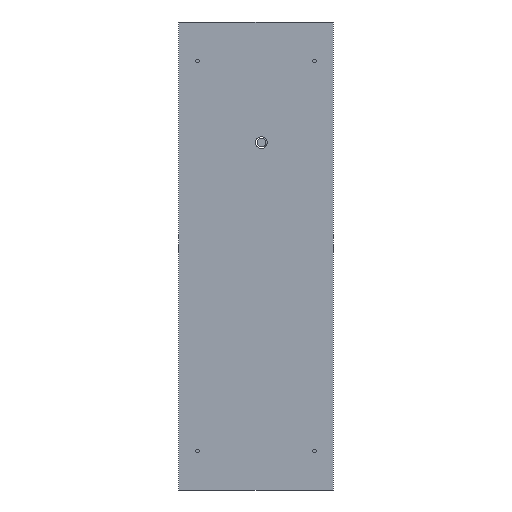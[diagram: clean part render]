
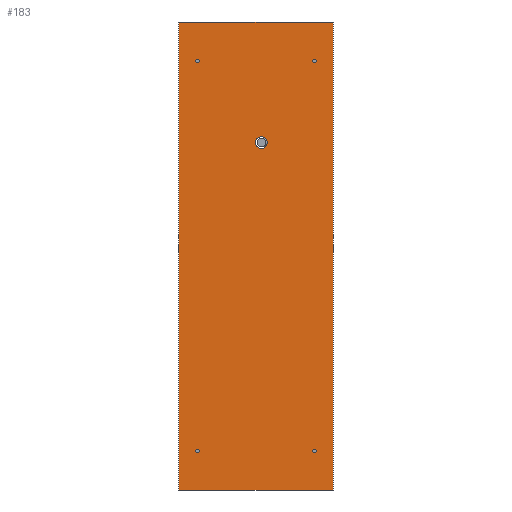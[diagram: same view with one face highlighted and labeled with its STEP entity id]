
A CAD part, front view. The second image highlights one B-rep face of the part: STEP entity #183.
In plain terms, the highlighted planar face has unit normal (0, -1, 0).
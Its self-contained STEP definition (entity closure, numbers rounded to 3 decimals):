
#67 = EDGE_CURVE('',#68,#70,#72,.T.);
#68 = VERTEX_POINT('',#69);
#69 = CARTESIAN_POINT('',(-99.,-52.,12.));
#70 = VERTEX_POINT('',#71);
#71 = CARTESIAN_POINT('',(-99.,-52.,612.));
#72 = SURFACE_CURVE('',#73,(#77,#89),.PCURVE_S1.);
#73 = LINE('',#74,#75);
#74 = CARTESIAN_POINT('',(-99.,-52.,12.));
#75 = VECTOR('',#76,1.);
#76 = DIRECTION('',(0.,0.,1.));
#77 = PCURVE('',#78,#83);
#78 = PLANE('',#79);
#79 = AXIS2_PLACEMENT_3D('',#80,#81,#82);
#80 = CARTESIAN_POINT('',(-99.,-52.,12.));
#81 = DIRECTION('',(1.,0.,0.));
#82 = DIRECTION('',(0.,0.,1.));
#83 = DEFINITIONAL_REPRESENTATION('',(#84),#88);
#84 = LINE('',#85,#86);
#85 = CARTESIAN_POINT('',(0.,0.));
#86 = VECTOR('',#87,1.);
#87 = DIRECTION('',(1.,0.));
#88 = ( GEOMETRIC_REPRESENTATION_CONTEXT(2) 
PARAMETRIC_REPRESENTATION_CONTEXT() REPRESENTATION_CONTEXT('2D SPACE',''
  ) );
#89 = PCURVE('',#90,#95);
#90 = PLANE('',#91);
#91 = AXIS2_PLACEMENT_3D('',#92,#93,#94);
#92 = CARTESIAN_POINT('',(-99.,-52.,12.));
#93 = DIRECTION('',(0.,1.,0.));
#94 = DIRECTION('',(0.,0.,1.));
#95 = DEFINITIONAL_REPRESENTATION('',(#96),#100);
#96 = LINE('',#97,#98);
#97 = CARTESIAN_POINT('',(0.,0.));
#98 = VECTOR('',#99,1.);
#99 = DIRECTION('',(1.,0.));
#100 = ( GEOMETRIC_REPRESENTATION_CONTEXT(2) 
PARAMETRIC_REPRESENTATION_CONTEXT() REPRESENTATION_CONTEXT('2D SPACE',''
  ) );
#118 = PLANE('',#119);
#119 = AXIS2_PLACEMENT_3D('',#120,#121,#122);
#120 = CARTESIAN_POINT('',(-99.,-52.,12.));
#121 = DIRECTION('',(0.,0.,1.));
#122 = DIRECTION('',(1.,0.,0.));
#172 = PLANE('',#173);
#173 = AXIS2_PLACEMENT_3D('',#174,#175,#176);
#174 = CARTESIAN_POINT('',(-99.,-52.,612.));
#175 = DIRECTION('',(0.,0.,1.));
#176 = DIRECTION('',(1.,0.,0.));
#183 = ADVANCED_FACE('',(#184,#259,#290,#321,#352,#383),#90,.F.);
#184 = FACE_BOUND('',#185,.F.);
#185 = EDGE_LOOP('',(#186,#209,#210,#233));
#186 = ORIENTED_EDGE('',*,*,#187,.F.);
#187 = EDGE_CURVE('',#68,#188,#190,.T.);
#188 = VERTEX_POINT('',#189);
#189 = CARTESIAN_POINT('',(99.,-52.,12.));
#190 = SURFACE_CURVE('',#191,(#195,#202),.PCURVE_S1.);
#191 = LINE('',#192,#193);
#192 = CARTESIAN_POINT('',(-99.,-52.,12.));
#193 = VECTOR('',#194,1.);
#194 = DIRECTION('',(1.,0.,0.));
#195 = PCURVE('',#90,#196);
#196 = DEFINITIONAL_REPRESENTATION('',(#197),#201);
#197 = LINE('',#198,#199);
#198 = CARTESIAN_POINT('',(0.,0.));
#199 = VECTOR('',#200,1.);
#200 = DIRECTION('',(0.,1.));
#201 = ( GEOMETRIC_REPRESENTATION_CONTEXT(2) 
PARAMETRIC_REPRESENTATION_CONTEXT() REPRESENTATION_CONTEXT('2D SPACE',''
  ) );
#202 = PCURVE('',#118,#203);
#203 = DEFINITIONAL_REPRESENTATION('',(#204),#208);
#204 = LINE('',#205,#206);
#205 = CARTESIAN_POINT('',(0.,0.));
#206 = VECTOR('',#207,1.);
#207 = DIRECTION('',(1.,0.));
#208 = ( GEOMETRIC_REPRESENTATION_CONTEXT(2) 
PARAMETRIC_REPRESENTATION_CONTEXT() REPRESENTATION_CONTEXT('2D SPACE',''
  ) );
#209 = ORIENTED_EDGE('',*,*,#67,.T.);
#210 = ORIENTED_EDGE('',*,*,#211,.T.);
#211 = EDGE_CURVE('',#70,#212,#214,.T.);
#212 = VERTEX_POINT('',#213);
#213 = CARTESIAN_POINT('',(99.,-52.,612.));
#214 = SURFACE_CURVE('',#215,(#219,#226),.PCURVE_S1.);
#215 = LINE('',#216,#217);
#216 = CARTESIAN_POINT('',(-99.,-52.,612.));
#217 = VECTOR('',#218,1.);
#218 = DIRECTION('',(1.,0.,0.));
#219 = PCURVE('',#90,#220);
#220 = DEFINITIONAL_REPRESENTATION('',(#221),#225);
#221 = LINE('',#222,#223);
#222 = CARTESIAN_POINT('',(600.,0.));
#223 = VECTOR('',#224,1.);
#224 = DIRECTION('',(0.,1.));
#225 = ( GEOMETRIC_REPRESENTATION_CONTEXT(2) 
PARAMETRIC_REPRESENTATION_CONTEXT() REPRESENTATION_CONTEXT('2D SPACE',''
  ) );
#226 = PCURVE('',#172,#227);
#227 = DEFINITIONAL_REPRESENTATION('',(#228),#232);
#228 = LINE('',#229,#230);
#229 = CARTESIAN_POINT('',(0.,0.));
#230 = VECTOR('',#231,1.);
#231 = DIRECTION('',(1.,0.));
#232 = ( GEOMETRIC_REPRESENTATION_CONTEXT(2) 
PARAMETRIC_REPRESENTATION_CONTEXT() REPRESENTATION_CONTEXT('2D SPACE',''
  ) );
#233 = ORIENTED_EDGE('',*,*,#234,.F.);
#234 = EDGE_CURVE('',#188,#212,#235,.T.);
#235 = SURFACE_CURVE('',#236,(#240,#247),.PCURVE_S1.);
#236 = LINE('',#237,#238);
#237 = CARTESIAN_POINT('',(99.,-52.,12.));
#238 = VECTOR('',#239,1.);
#239 = DIRECTION('',(0.,0.,1.));
#240 = PCURVE('',#90,#241);
#241 = DEFINITIONAL_REPRESENTATION('',(#242),#246);
#242 = LINE('',#243,#244);
#243 = CARTESIAN_POINT('',(0.,198.));
#244 = VECTOR('',#245,1.);
#245 = DIRECTION('',(1.,0.));
#246 = ( GEOMETRIC_REPRESENTATION_CONTEXT(2) 
PARAMETRIC_REPRESENTATION_CONTEXT() REPRESENTATION_CONTEXT('2D SPACE',''
  ) );
#247 = PCURVE('',#248,#253);
#248 = PLANE('',#249);
#249 = AXIS2_PLACEMENT_3D('',#250,#251,#252);
#250 = CARTESIAN_POINT('',(99.,-52.,12.));
#251 = DIRECTION('',(1.,0.,0.));
#252 = DIRECTION('',(0.,0.,1.));
#253 = DEFINITIONAL_REPRESENTATION('',(#254),#258);
#254 = LINE('',#255,#256);
#255 = CARTESIAN_POINT('',(0.,0.));
#256 = VECTOR('',#257,1.);
#257 = DIRECTION('',(1.,0.));
#258 = ( GEOMETRIC_REPRESENTATION_CONTEXT(2) 
PARAMETRIC_REPRESENTATION_CONTEXT() REPRESENTATION_CONTEXT('2D SPACE',''
  ) );
#259 = FACE_BOUND('',#260,.F.);
#260 = EDGE_LOOP('',(#261));
#261 = ORIENTED_EDGE('',*,*,#262,.F.);
#262 = EDGE_CURVE('',#263,#263,#265,.T.);
#263 = VERTEX_POINT('',#264);
#264 = CARTESIAN_POINT('',(-75.,-52.,64.25));
#265 = SURFACE_CURVE('',#266,(#271,#278),.PCURVE_S1.);
#266 = CIRCLE('',#267,2.25);
#267 = AXIS2_PLACEMENT_3D('',#268,#269,#270);
#268 = CARTESIAN_POINT('',(-75.,-52.,62.));
#269 = DIRECTION('',(0.,1.,0.));
#270 = DIRECTION('',(0.,-0.,1.));
#271 = PCURVE('',#90,#272);
#272 = DEFINITIONAL_REPRESENTATION('',(#273),#277);
#273 = CIRCLE('',#274,2.25);
#274 = AXIS2_PLACEMENT_2D('',#275,#276);
#275 = CARTESIAN_POINT('',(50.,24.));
#276 = DIRECTION('',(1.,0.));
#277 = ( GEOMETRIC_REPRESENTATION_CONTEXT(2) 
PARAMETRIC_REPRESENTATION_CONTEXT() REPRESENTATION_CONTEXT('2D SPACE',''
  ) );
#278 = PCURVE('',#279,#284);
#279 = CYLINDRICAL_SURFACE('',#280,2.25);
#280 = AXIS2_PLACEMENT_3D('',#281,#282,#283);
#281 = CARTESIAN_POINT('',(-75.,-52.,62.));
#282 = DIRECTION('',(0.,1.,0.));
#283 = DIRECTION('',(0.,-0.,1.));
#284 = DEFINITIONAL_REPRESENTATION('',(#285),#289);
#285 = LINE('',#286,#287);
#286 = CARTESIAN_POINT('',(0.,0.));
#287 = VECTOR('',#288,1.);
#288 = DIRECTION('',(1.,0.));
#289 = ( GEOMETRIC_REPRESENTATION_CONTEXT(2) 
PARAMETRIC_REPRESENTATION_CONTEXT() REPRESENTATION_CONTEXT('2D SPACE',''
  ) );
#290 = FACE_BOUND('',#291,.F.);
#291 = EDGE_LOOP('',(#292));
#292 = ORIENTED_EDGE('',*,*,#293,.F.);
#293 = EDGE_CURVE('',#294,#294,#296,.T.);
#294 = VERTEX_POINT('',#295);
#295 = CARTESIAN_POINT('',(-75.,-52.,564.25));
#296 = SURFACE_CURVE('',#297,(#302,#309),.PCURVE_S1.);
#297 = CIRCLE('',#298,2.25);
#298 = AXIS2_PLACEMENT_3D('',#299,#300,#301);
#299 = CARTESIAN_POINT('',(-75.,-52.,562.));
#300 = DIRECTION('',(0.,1.,0.));
#301 = DIRECTION('',(0.,-0.,1.));
#302 = PCURVE('',#90,#303);
#303 = DEFINITIONAL_REPRESENTATION('',(#304),#308);
#304 = CIRCLE('',#305,2.25);
#305 = AXIS2_PLACEMENT_2D('',#306,#307);
#306 = CARTESIAN_POINT('',(550.,24.));
#307 = DIRECTION('',(1.,0.));
#308 = ( GEOMETRIC_REPRESENTATION_CONTEXT(2) 
PARAMETRIC_REPRESENTATION_CONTEXT() REPRESENTATION_CONTEXT('2D SPACE',''
  ) );
#309 = PCURVE('',#310,#315);
#310 = CYLINDRICAL_SURFACE('',#311,2.25);
#311 = AXIS2_PLACEMENT_3D('',#312,#313,#314);
#312 = CARTESIAN_POINT('',(-75.,-52.,562.));
#313 = DIRECTION('',(0.,1.,0.));
#314 = DIRECTION('',(0.,-0.,1.));
#315 = DEFINITIONAL_REPRESENTATION('',(#316),#320);
#316 = LINE('',#317,#318);
#317 = CARTESIAN_POINT('',(0.,0.));
#318 = VECTOR('',#319,1.);
#319 = DIRECTION('',(1.,0.));
#320 = ( GEOMETRIC_REPRESENTATION_CONTEXT(2) 
PARAMETRIC_REPRESENTATION_CONTEXT() REPRESENTATION_CONTEXT('2D SPACE',''
  ) );
#321 = FACE_BOUND('',#322,.F.);
#322 = EDGE_LOOP('',(#323));
#323 = ORIENTED_EDGE('',*,*,#324,.F.);
#324 = EDGE_CURVE('',#325,#325,#327,.T.);
#325 = VERTEX_POINT('',#326);
#326 = CARTESIAN_POINT('',(75.,-52.,64.25));
#327 = SURFACE_CURVE('',#328,(#333,#340),.PCURVE_S1.);
#328 = CIRCLE('',#329,2.25);
#329 = AXIS2_PLACEMENT_3D('',#330,#331,#332);
#330 = CARTESIAN_POINT('',(75.,-52.,62.));
#331 = DIRECTION('',(0.,1.,0.));
#332 = DIRECTION('',(0.,-0.,1.));
#333 = PCURVE('',#90,#334);
#334 = DEFINITIONAL_REPRESENTATION('',(#335),#339);
#335 = CIRCLE('',#336,2.25);
#336 = AXIS2_PLACEMENT_2D('',#337,#338);
#337 = CARTESIAN_POINT('',(50.,174.));
#338 = DIRECTION('',(1.,0.));
#339 = ( GEOMETRIC_REPRESENTATION_CONTEXT(2) 
PARAMETRIC_REPRESENTATION_CONTEXT() REPRESENTATION_CONTEXT('2D SPACE',''
  ) );
#340 = PCURVE('',#341,#346);
#341 = CYLINDRICAL_SURFACE('',#342,2.25);
#342 = AXIS2_PLACEMENT_3D('',#343,#344,#345);
#343 = CARTESIAN_POINT('',(75.,-52.,62.));
#344 = DIRECTION('',(0.,1.,0.));
#345 = DIRECTION('',(0.,-0.,1.));
#346 = DEFINITIONAL_REPRESENTATION('',(#347),#351);
#347 = LINE('',#348,#349);
#348 = CARTESIAN_POINT('',(0.,0.));
#349 = VECTOR('',#350,1.);
#350 = DIRECTION('',(1.,0.));
#351 = ( GEOMETRIC_REPRESENTATION_CONTEXT(2) 
PARAMETRIC_REPRESENTATION_CONTEXT() REPRESENTATION_CONTEXT('2D SPACE',''
  ) );
#352 = FACE_BOUND('',#353,.F.);
#353 = EDGE_LOOP('',(#354));
#354 = ORIENTED_EDGE('',*,*,#355,.F.);
#355 = EDGE_CURVE('',#356,#356,#358,.T.);
#356 = VERTEX_POINT('',#357);
#357 = CARTESIAN_POINT('',(7.,-52.,465.));
#358 = SURFACE_CURVE('',#359,(#364,#371),.PCURVE_S1.);
#359 = CIRCLE('',#360,7.5);
#360 = AXIS2_PLACEMENT_3D('',#361,#362,#363);
#361 = CARTESIAN_POINT('',(7.,-52.,457.5));
#362 = DIRECTION('',(0.,1.,0.));
#363 = DIRECTION('',(0.,-0.,1.));
#364 = PCURVE('',#90,#365);
#365 = DEFINITIONAL_REPRESENTATION('',(#366),#370);
#366 = CIRCLE('',#367,7.5);
#367 = AXIS2_PLACEMENT_2D('',#368,#369);
#368 = CARTESIAN_POINT('',(445.5,106.));
#369 = DIRECTION('',(1.,0.));
#370 = ( GEOMETRIC_REPRESENTATION_CONTEXT(2) 
PARAMETRIC_REPRESENTATION_CONTEXT() REPRESENTATION_CONTEXT('2D SPACE',''
  ) );
#371 = PCURVE('',#372,#377);
#372 = CYLINDRICAL_SURFACE('',#373,7.5);
#373 = AXIS2_PLACEMENT_3D('',#374,#375,#376);
#374 = CARTESIAN_POINT('',(7.,-52.,457.5));
#375 = DIRECTION('',(0.,1.,0.));
#376 = DIRECTION('',(0.,-0.,1.));
#377 = DEFINITIONAL_REPRESENTATION('',(#378),#382);
#378 = LINE('',#379,#380);
#379 = CARTESIAN_POINT('',(0.,0.));
#380 = VECTOR('',#381,1.);
#381 = DIRECTION('',(1.,0.));
#382 = ( GEOMETRIC_REPRESENTATION_CONTEXT(2) 
PARAMETRIC_REPRESENTATION_CONTEXT() REPRESENTATION_CONTEXT('2D SPACE',''
  ) );
#383 = FACE_BOUND('',#384,.F.);
#384 = EDGE_LOOP('',(#385));
#385 = ORIENTED_EDGE('',*,*,#386,.F.);
#386 = EDGE_CURVE('',#387,#387,#389,.T.);
#387 = VERTEX_POINT('',#388);
#388 = CARTESIAN_POINT('',(75.,-52.,564.25));
#389 = SURFACE_CURVE('',#390,(#395,#402),.PCURVE_S1.);
#390 = CIRCLE('',#391,2.25);
#391 = AXIS2_PLACEMENT_3D('',#392,#393,#394);
#392 = CARTESIAN_POINT('',(75.,-52.,562.));
#393 = DIRECTION('',(0.,1.,0.));
#394 = DIRECTION('',(0.,-0.,1.));
#395 = PCURVE('',#90,#396);
#396 = DEFINITIONAL_REPRESENTATION('',(#397),#401);
#397 = CIRCLE('',#398,2.25);
#398 = AXIS2_PLACEMENT_2D('',#399,#400);
#399 = CARTESIAN_POINT('',(550.,174.));
#400 = DIRECTION('',(1.,0.));
#401 = ( GEOMETRIC_REPRESENTATION_CONTEXT(2) 
PARAMETRIC_REPRESENTATION_CONTEXT() REPRESENTATION_CONTEXT('2D SPACE',''
  ) );
#402 = PCURVE('',#403,#408);
#403 = CYLINDRICAL_SURFACE('',#404,2.25);
#404 = AXIS2_PLACEMENT_3D('',#405,#406,#407);
#405 = CARTESIAN_POINT('',(75.,-52.,562.));
#406 = DIRECTION('',(0.,1.,0.));
#407 = DIRECTION('',(0.,-0.,1.));
#408 = DEFINITIONAL_REPRESENTATION('',(#409),#413);
#409 = LINE('',#410,#411);
#410 = CARTESIAN_POINT('',(0.,0.));
#411 = VECTOR('',#412,1.);
#412 = DIRECTION('',(1.,0.));
#413 = ( GEOMETRIC_REPRESENTATION_CONTEXT(2) 
PARAMETRIC_REPRESENTATION_CONTEXT() REPRESENTATION_CONTEXT('2D SPACE',''
  ) );
